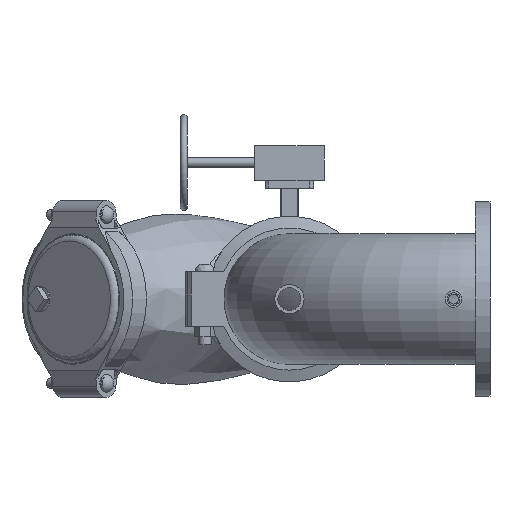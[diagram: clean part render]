
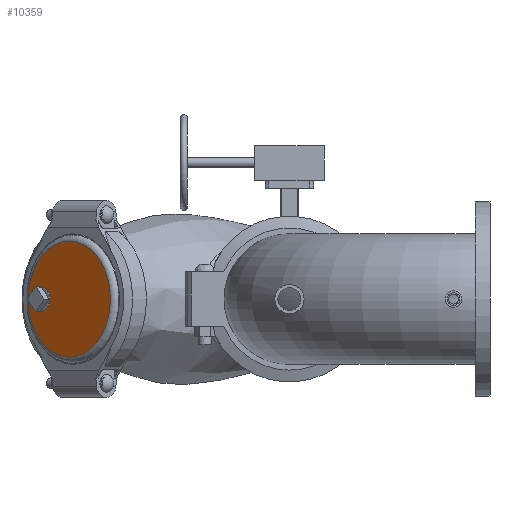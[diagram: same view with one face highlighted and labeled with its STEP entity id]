
A CAD part, front view. The second image highlights one B-rep face of the part: STEP entity #10359.
In plain terms, the highlighted planar face has unit normal (-0.707, -0.707, 0) as drawn and (1, 0, 0) by its records, which use the part's own axes.
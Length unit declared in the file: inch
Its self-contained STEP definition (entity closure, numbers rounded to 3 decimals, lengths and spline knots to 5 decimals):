
#1989=FACE_BOUND('',#2962,.T.);
#2347=FACE_OUTER_BOUND('',#2961,.T.);
#2961=EDGE_LOOP('',(#7694,#7695));
#2962=EDGE_LOOP('',(#7696));
#3579=CIRCLE('',#11462,1.);
#3587=CIRCLE('',#11473,4.781);
#3588=CIRCLE('',#11474,4.781);
#4381=VERTEX_POINT('',#21197);
#4389=VERTEX_POINT('',#21218);
#4390=VERTEX_POINT('',#21219);
#5574=EDGE_CURVE('',#4381,#4381,#3579,.T.);
#5583=EDGE_CURVE('',#4389,#4390,#3587,.T.);
#5584=EDGE_CURVE('',#4390,#4389,#3588,.T.);
#7694=ORIENTED_EDGE('',*,*,#5583,.T.);
#7695=ORIENTED_EDGE('',*,*,#5584,.T.);
#7696=ORIENTED_EDGE('',*,*,#5574,.T.);
#9345=PLANE('',#11476);
#10359=ADVANCED_FACE('',(#2347,#1989),#9345,.T.);
#11462=AXIS2_PLACEMENT_3D('',#21199,#13509,#13510);
#11473=AXIS2_PLACEMENT_3D('',#21220,#13532,#13533);
#11474=AXIS2_PLACEMENT_3D('',#21221,#13534,#13535);
#11476=AXIS2_PLACEMENT_3D('',#21223,#13538,#13539);
#13509=DIRECTION('center_axis',(-1.,0.,0.));
#13510=DIRECTION('ref_axis',(0.,0.,1.));
#13532=DIRECTION('center_axis',(1.,0.,0.));
#13533=DIRECTION('ref_axis',(0.,0.,-1.));
#13534=DIRECTION('center_axis',(1.,0.,0.));
#13535=DIRECTION('ref_axis',(0.,0.,-1.));
#13538=DIRECTION('center_axis',(1.,0.,0.));
#13539=DIRECTION('ref_axis',(0.,0.,-1.));
#21197=CARTESIAN_POINT('',(1.68,3.25,-1.));
#21199=CARTESIAN_POINT('Origin',(1.68,3.25,0.));
#21218=CARTESIAN_POINT('',(1.68,4.781,0.));
#21219=CARTESIAN_POINT('',(1.68,0.,4.781));
#21220=CARTESIAN_POINT('Origin',(1.68,0.,0.));
#21221=CARTESIAN_POINT('Origin',(1.68,0.,0.));
#21223=CARTESIAN_POINT('Origin',(1.68,0.,0.));
